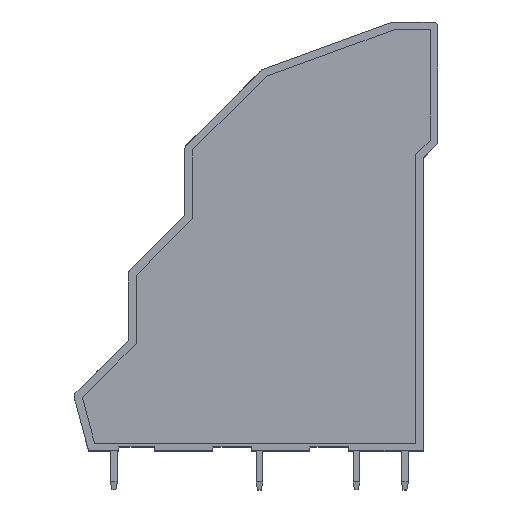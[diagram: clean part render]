
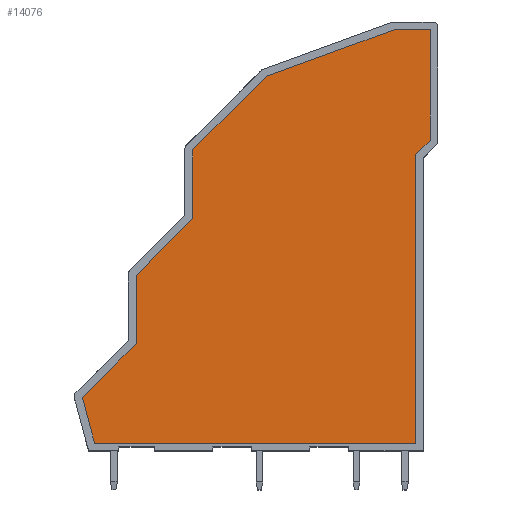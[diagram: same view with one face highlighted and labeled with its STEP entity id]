
A CAD part, top view. The second image highlights one B-rep face of the part: STEP entity #14076.
In plain terms, the highlighted planar face has unit normal (0, 0, 1).
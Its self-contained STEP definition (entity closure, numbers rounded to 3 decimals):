
#4565=DIRECTION('',(0.707,0.707,0.));
#4566=VECTOR('',#4565,10.742);
#4567=CARTESIAN_POINT('',(12.232,31.014,12.12));
#4568=LINE('',#4567,#4566);
#4569=DIRECTION('',(0.94,0.342,0.));
#4570=VECTOR('',#4569,14.005);
#4571=CARTESIAN_POINT('',(19.828,38.61,12.12));
#4572=LINE('',#4571,#4570);
#4573=DIRECTION('',(1.,0.,0.));
#4574=VECTOR('',#4573,3.711);
#4575=CARTESIAN_POINT('',(32.989,43.4,12.12));
#4576=LINE('',#4575,#4574);
#4577=DIRECTION('',(0.,-1.,0.));
#4578=VECTOR('',#4577,11.369);
#4579=CARTESIAN_POINT('',(36.7,43.4,12.12));
#4580=LINE('',#4579,#4578);
#4581=DIRECTION('',(-0.707,-0.707,0.));
#4582=VECTOR('',#4581,2.121);
#4583=CARTESIAN_POINT('',(36.7,32.031,12.12));
#4584=LINE('',#4583,#4582);
#4585=DIRECTION('',(0.,-1.,0.));
#4586=VECTOR('',#4585,29.731);
#4587=CARTESIAN_POINT('',(35.2,30.531,12.12));
#4588=LINE('',#4587,#4586);
#4589=DIRECTION('',(-1.,0.,0.));
#4590=VECTOR('',#4589,33.086);
#4591=CARTESIAN_POINT('',(35.2,0.8,12.12));
#4592=LINE('',#4591,#4590);
#4593=DIRECTION('',(-0.259,0.966,0.));
#4594=VECTOR('',#4593,4.861);
#4595=CARTESIAN_POINT('',(2.114,0.8,12.12));
#4596=LINE('',#4595,#4594);
#4597=DIRECTION('',(0.707,0.707,0.));
#4598=VECTOR('',#4597,7.841);
#4599=CARTESIAN_POINT('',(0.856,5.495,12.12));
#4600=LINE('',#4599,#4598);
#4601=DIRECTION('',(0.,1.,0.));
#4602=VECTOR('',#4601,7.071);
#4603=CARTESIAN_POINT('',(6.4,11.04,12.12));
#4604=LINE('',#4603,#4602);
#4605=DIRECTION('',(0.707,0.707,0.));
#4606=VECTOR('',#4605,8.248);
#4607=CARTESIAN_POINT('',(6.4,18.111,12.12));
#4608=LINE('',#4607,#4606);
#4609=DIRECTION('',(0.,1.,0.));
#4610=VECTOR('',#4609,7.071);
#4611=CARTESIAN_POINT('',(12.232,23.943,12.12));
#4612=LINE('',#4611,#4610);
#6717=CARTESIAN_POINT('',(19.828,38.61,12.12));
#6718=VERTEX_POINT('',#6717);
#6719=CARTESIAN_POINT('',(12.232,31.014,12.12));
#6720=VERTEX_POINT('',#6719);
#6721=CARTESIAN_POINT('',(32.989,43.4,12.12));
#6722=VERTEX_POINT('',#6721);
#6723=CARTESIAN_POINT('',(36.7,43.4,12.12));
#6724=VERTEX_POINT('',#6723);
#6725=CARTESIAN_POINT('',(36.7,32.031,12.12));
#6726=VERTEX_POINT('',#6725);
#6727=CARTESIAN_POINT('',(35.2,30.531,12.12));
#6728=VERTEX_POINT('',#6727);
#6729=CARTESIAN_POINT('',(35.2,0.8,12.12));
#6730=VERTEX_POINT('',#6729);
#6731=CARTESIAN_POINT('',(2.114,0.8,12.12));
#6732=VERTEX_POINT('',#6731);
#6733=CARTESIAN_POINT('',(0.856,5.495,12.12));
#6734=VERTEX_POINT('',#6733);
#6735=CARTESIAN_POINT('',(6.4,11.04,12.12));
#6736=VERTEX_POINT('',#6735);
#6737=CARTESIAN_POINT('',(6.4,18.111,12.12));
#6738=VERTEX_POINT('',#6737);
#6739=CARTESIAN_POINT('',(12.232,23.943,12.12));
#6740=VERTEX_POINT('',#6739);
#14057=CARTESIAN_POINT('',(37.5,813.386,12.12));
#14058=DIRECTION('',(0.,0.,1.));
#14059=DIRECTION('',(1.,0.,0.));
#14060=AXIS2_PLACEMENT_3D('',#14057,#14058,#14059);
#14061=PLANE('',#14060);
#14062=ORIENTED_EDGE('',*,*,#13897,.T.);
#14063=ORIENTED_EDGE('',*,*,#13912,.T.);
#14064=ORIENTED_EDGE('',*,*,#13926,.T.);
#14065=ORIENTED_EDGE('',*,*,#13940,.T.);
#14066=ORIENTED_EDGE('',*,*,#13954,.T.);
#14067=ORIENTED_EDGE('',*,*,#13968,.T.);
#14068=ORIENTED_EDGE('',*,*,#13982,.T.);
#14069=ORIENTED_EDGE('',*,*,#13996,.T.);
#14070=ORIENTED_EDGE('',*,*,#14010,.T.);
#14071=ORIENTED_EDGE('',*,*,#14024,.T.);
#14072=ORIENTED_EDGE('',*,*,#14038,.T.);
#14073=ORIENTED_EDGE('',*,*,#14051,.T.);
#14074=EDGE_LOOP('',(#14062,#14063,#14064,#14065,#14066,#14067,#14068,#14069,
#14070,#14071,#14072,#14073));
#14075=FACE_OUTER_BOUND('',#14074,.F.);
#14076=ADVANCED_FACE('',(#14075),#14061,.T.);
#13897=EDGE_CURVE('',#6720,#6718,#4568,.T.);
#13912=EDGE_CURVE('',#6718,#6722,#4572,.T.);
#13926=EDGE_CURVE('',#6722,#6724,#4576,.T.);
#13940=EDGE_CURVE('',#6724,#6726,#4580,.T.);
#13954=EDGE_CURVE('',#6726,#6728,#4584,.T.);
#13968=EDGE_CURVE('',#6728,#6730,#4588,.T.);
#13982=EDGE_CURVE('',#6730,#6732,#4592,.T.);
#13996=EDGE_CURVE('',#6732,#6734,#4596,.T.);
#14010=EDGE_CURVE('',#6734,#6736,#4600,.T.);
#14024=EDGE_CURVE('',#6736,#6738,#4604,.T.);
#14038=EDGE_CURVE('',#6738,#6740,#4608,.T.);
#14051=EDGE_CURVE('',#6740,#6720,#4612,.T.);
